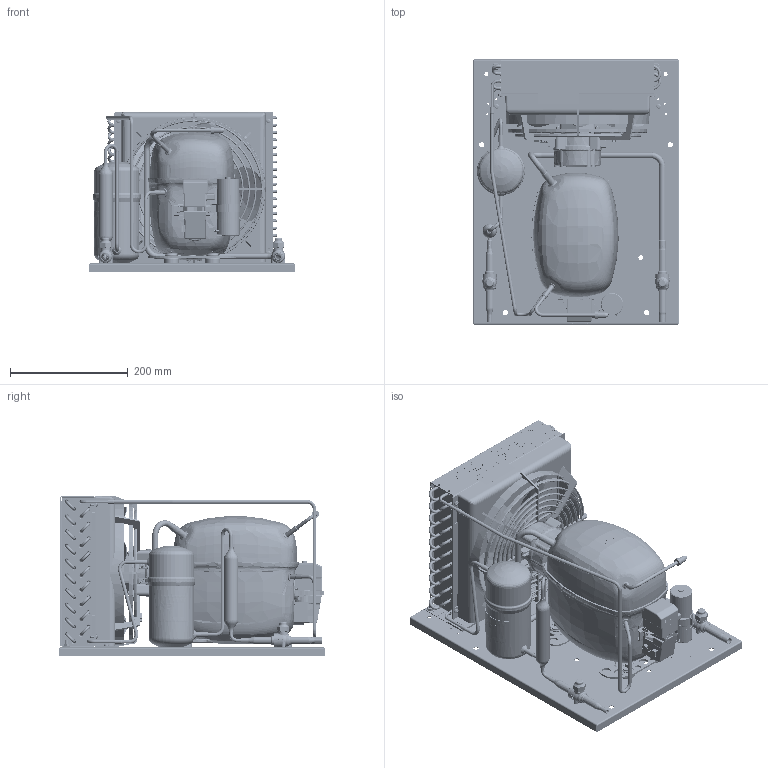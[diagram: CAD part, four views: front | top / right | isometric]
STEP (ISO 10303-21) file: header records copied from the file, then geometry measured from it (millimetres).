
FILE_DESCRIPTION(/* description */ ('Unknown','CAx-IF Rec.Pracs.---Representation and Presentation of Product Manufacturing Information (PMI)---4.0---2014-10-13','CAx-IF Rec.Pracs.---3D Tessellated Geometry---0.4---2014-09-14','2;1'),/* implementation_level */ '2;1');
FILE_NAME(/* name */ '2298-0087',/* time_stamp */ '2023-06-06T09:52:48+02:00',/* author */ ('Unknown'),/* organization */ ('Unknown'),/* preprocessor_version */ 'ST-DEVELOPER v16.7',/* originating_system */ 'Solid Edge',/* authorisation */ 'Unknown');
FILE_SCHEMA (('AP242_MANAGED_MODEL_BASED_3D_ENGINEERING_MIM_LF { 1 0 10303 442 1 1 4 }'));
Products named in the file (46): 2298-0087; 1040240fi0_oa_0; rl5004206; rl5004207; r59a00289; rl5011001; 6897-0014; rl5003904; rn5003208; 7000-0399; 9211-0497; cg230n; 118-3661; 99540010; GFN30_62-62; 84a4.2x9.5xtbcf01; 84fm6x14xxxtesf00; 84DM6X5.2XXESRF00; 99500100_oa_1; 7400-0070; a230-28; 62010150; GBC10S-009L7031; 9221-0002; 99000205; 55300398; 6803-2380; 99000324; 99000327; 99000326; 99000321; GBC6S-009L7030; 99000025; 84dm4x3.6xxesrf00; 84RM10X21XXPIAF00; 99000044; 99000077_SECOP; 118-7353; 6805-1816; 6803-2423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
Assembly tree (112 placements, depth 3):
  2298-0087
    1040240fi0_oa_0
      rl5004206
      rl5004207
      r59a00289  x20
      rl5011001
      6897-0014  x19
      rl5003904  x2
      rn5003208
    7000-0399
    9211-0497
    cg230n
    118-3661  x4
    99540010
    GFN30_62-62
    84a4.2x9.5xtbcf01  x6
    84fm6x14xxxtesf00  x2
    84DM6X5.2XXESRF00  x2
    99500100_oa_1
    7400-0070
    a230-28
    62010150
    GBC10S-009L7031
    9221-0002
    99000205
    55300398
    6803-2380
    99000324
    99000327
    99000326
    99000321
    GBC6S-009L7030
    99000025
    84dm4x3.6xxesrf00  x4
    84RM10X21XXPIAF00  x4
    99000044
    99000077_SECOP
    118-7353  x4
    6805-1816
    6803-2423
    680061642
    84DM8X6.9XXESRF00
    6803-2424
    6803-2425
    84fm3x6xxxxtfgf00  x4
    84rm3x8xxxxpiaf00  x8
Bounding box: 350 x 450 x 272.6 mm (x, y, z)
Volume: 5038314.6 mm3; surface area: 2215081.4 mm2
Topology: 122 solids, 131 shells, 14555 faces, 38042 edges, 24401 vertices
Faces by surface type: plane 6430, cylinder 3340, bspline 2315, torus 1564, cone 769, sphere 137
Full cylindrical faces by diameter (mm): 1.2 x4, 1.3 x2, 1.5 x2, 1.8 x2, 1.945 x3, 2 x20, 2.2 x4, 2.31 x5, 2.45 x6, 2.459 x4, 3 x6, 3.14 x6, 3.2 x2, 3.242 x4, 3.34 x8, 3.375 x1, 3.5 x20, 3.6 x4, 4 x9, 4.2 x58, 4.205 x11, 4.5 x47, 4.8 x2, 5 x97, 5.2 x2, 5.48 x73, 5.8 x4, 6 x26, 6.1 x2, 6.2 x6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
Entity records: 741100 total; most frequent: CARTESIAN_POINT 356490, ORIENTED_EDGE 68656, DIRECTION 55421, EDGE_CURVE 34328, VERTEX_POINT 22770, AXIS2_PLACEMENT_3D 20055, FACE_BOUND 16648, EDGE_LOOP 16644
